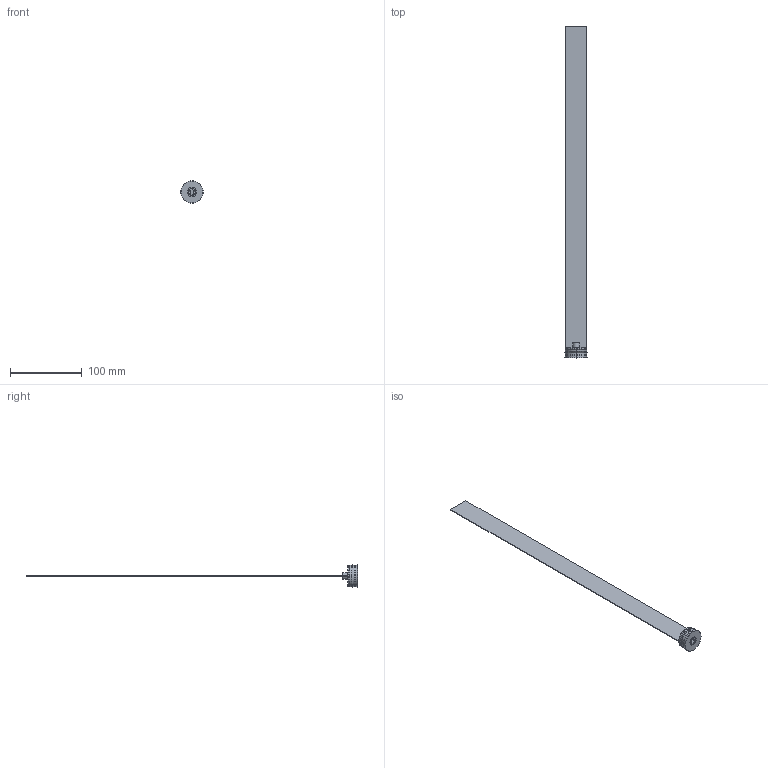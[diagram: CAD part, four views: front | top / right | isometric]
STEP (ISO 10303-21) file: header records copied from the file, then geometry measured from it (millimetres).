
FILE_DESCRIPTION (( 'STEP AP203' ), '1' );
FILE_NAME ('RL30x450F.STEP', '2015-12-04T10:22:24', ( 'Balzi' ), ( '' ), 'SwSTEP 2.0', 'SolidWorks 2015', '' );
FILE_SCHEMA (( 'CONFIG_CONTROL_DESIGN' ));
Length unit declared in the file: millimetre
Products named in the file (1): RL30x450F
Bounding box: 31.4 x 464 x 31.4 mm (x, y, z)
Volume: 23365.7 mm3; surface area: 31387.2 mm2
Topology: 1 solids, 1 shells, 75 faces, 177 edges, 109 vertices
Faces by surface type: plane 31, cone 19, cylinder 17, torus 8
Entity records: 2245 total; most frequent: CARTESIAN_POINT 412, DIRECTION 386, ORIENTED_EDGE 354, EDGE_CURVE 177, AXIS2_PLACEMENT_3D 147, VERTEX_POINT 109, LINE 92, VECTOR 92
